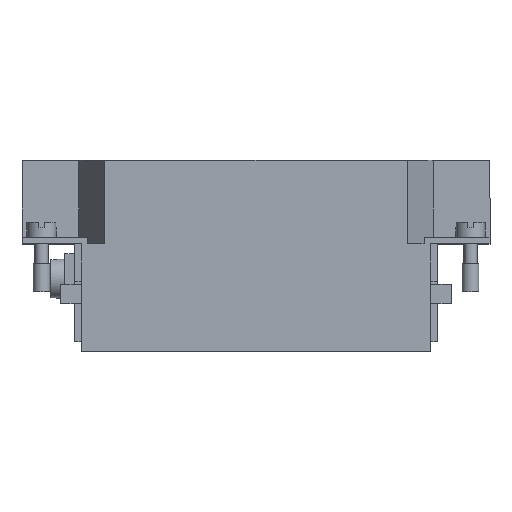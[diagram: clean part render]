
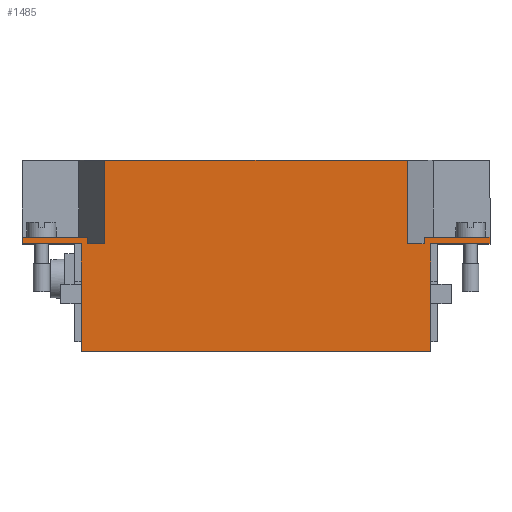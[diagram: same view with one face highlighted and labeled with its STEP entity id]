
A CAD part, top view. The second image highlights one B-rep face of the part: STEP entity #1485.
In plain terms, the highlighted planar face has unit normal (0, 0, 1).
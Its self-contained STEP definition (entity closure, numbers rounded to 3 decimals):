
#7 = LINE ( 'NONE', #10533, #17126 ) ;
#134 = EDGE_CURVE ( 'NONE', #12467, #17345, #18294, .T. ) ;
#245 = CARTESIAN_POINT ( 'NONE',  ( 42.25, -15.1, 17. ) ) ;
#351 = CARTESIAN_POINT ( 'NONE',  ( -42.25, -15.1, 17. ) ) ;
#538 = ORIENTED_EDGE ( 'NONE', *, *, #3403, .T. ) ;
#592 = ORIENTED_EDGE ( 'NONE', *, *, #15214, .T. ) ;
#624 = VECTOR ( 'NONE', #15705, 1000. ) ;
#713 = LINE ( 'NONE', #6537, #18332 ) ;
#1282 = VERTEX_POINT ( 'NONE', #12933 ) ;
#1347 = CARTESIAN_POINT ( 'NONE',  ( -30.35, -15.1, 17. ) ) ;
#1360 = CARTESIAN_POINT ( 'NONE',  ( -30.35, -13.9, 17. ) ) ;
#1450 = ORIENTED_EDGE ( 'NONE', *, *, #16449, .F. ) ;
#1485 = ADVANCED_FACE ( 'NONE', ( #8835 ), #2598, .F. ) ;
#1645 = ORIENTED_EDGE ( 'NONE', *, *, #4972, .T. ) ;
#1813 = CARTESIAN_POINT ( 'NONE',  ( 29.25, 0., 17. ) ) ;
#1934 = EDGE_CURVE ( 'NONE', #9774, #15544, #16832, .T. ) ;
#2029 = DIRECTION ( 'NONE',  ( 0., 1., 0. ) ) ;
#2134 = VERTEX_POINT ( 'NONE', #13065 ) ;
#2208 = DIRECTION ( 'NONE',  ( -1., 0., 0. ) ) ;
#2480 = CARTESIAN_POINT ( 'NONE',  ( -42.25, -13.9, 17. ) ) ;
#2598 = PLANE ( 'NONE',  #9828 ) ;
#2717 = LINE ( 'NONE', #17079, #624 ) ;
#2855 = VERTEX_POINT ( 'NONE', #8913 ) ;
#2982 = CARTESIAN_POINT ( 'NONE',  ( -30.35, 0., 17. ) ) ;
#3017 = ORIENTED_EDGE ( 'NONE', *, *, #17130, .T. ) ;
#3080 = VERTEX_POINT ( 'NONE', #12600 ) ;
#3257 = DIRECTION ( 'NONE',  ( 1., 0., 0. ) ) ;
#3293 = ORIENTED_EDGE ( 'NONE', *, *, #18886, .F. ) ;
#3403 = EDGE_CURVE ( 'NONE', #12467, #11055, #10590, .T. ) ;
#3729 = CARTESIAN_POINT ( 'NONE',  ( 30.35, -15.1, 17. ) ) ;
#3981 = CARTESIAN_POINT ( 'NONE',  ( -27.303, 0., 17. ) ) ;
#4144 = CARTESIAN_POINT ( 'NONE',  ( -29.25, -15.1, 17. ) ) ;
#4382 = VECTOR ( 'NONE', #14411, 1000. ) ;
#4675 = CARTESIAN_POINT ( 'NONE',  ( 31.55, -15.1, 17. ) ) ;
#4777 = LINE ( 'NONE', #1813, #17705 ) ;
#4972 = EDGE_CURVE ( 'NONE', #1282, #2855, #19487, .T. ) ;
#5327 = CARTESIAN_POINT ( 'NONE',  ( 31.55, -34.5, 17. ) ) ;
#5615 = DIRECTION ( 'NONE',  ( 0., -1., 0. ) ) ;
#6246 = CARTESIAN_POINT ( 'NONE',  ( 29.25, -15.1, 17. ) ) ;
#6310 = EDGE_CURVE ( 'NONE', #17449, #17106, #2717, .T. ) ;
#6355 = VECTOR ( 'NONE', #3257, 1000. ) ;
#6537 = CARTESIAN_POINT ( 'NONE',  ( 27.303, -15., 17. ) ) ;
#7265 = DIRECTION ( 'NONE',  ( 0., -1., 0. ) ) ;
#7449 = VERTEX_POINT ( 'NONE', #8310 ) ;
#7831 = EDGE_CURVE ( 'NONE', #19233, #17449, #17001, .T. ) ;
#8159 = LINE ( 'NONE', #11264, #4382 ) ;
#8281 = CARTESIAN_POINT ( 'NONE',  ( 29.25, -13.9, 17. ) ) ;
#8310 = CARTESIAN_POINT ( 'NONE',  ( 27.303, 0., 17. ) ) ;
#8358 = DIRECTION ( 'NONE',  ( 1., 0., 0. ) ) ;
#8833 = VERTEX_POINT ( 'NONE', #3981 ) ;
#8835 = FACE_OUTER_BOUND ( 'NONE', #9349, .T. ) ;
#8913 = CARTESIAN_POINT ( 'NONE',  ( -31.55, -34.5, 17. ) ) ;
#8965 = VECTOR ( 'NONE', #14246, 1000. ) ;
#9110 = VECTOR ( 'NONE', #17454, 1000. ) ;
#9167 = VECTOR ( 'NONE', #5615, 1000. ) ;
#9189 = LINE ( 'NONE', #18230, #6355 ) ;
#9349 = EDGE_LOOP ( 'NONE', ( #15488, #17257, #538, #3017, #1645, #9423, #19001, #12169, #3293, #17409, #10589, #1450, #592, #10594, #15094, #15220 ) ) ;
#9423 = ORIENTED_EDGE ( 'NONE', *, *, #18380, .T. ) ;
#9685 = EDGE_CURVE ( 'NONE', #3080, #8833, #13911, .T. ) ;
#9695 = EDGE_CURVE ( 'NONE', #18972, #3080, #9189, .T. ) ;
#9774 = VERTEX_POINT ( 'NONE', #13642 ) ;
#9786 = EDGE_CURVE ( 'NONE', #8833, #7449, #4777, .T. ) ;
#9828 = AXIS2_PLACEMENT_3D ( 'NONE', #11468, #9938, #15998 ) ;
#9938 = DIRECTION ( 'NONE',  ( 0., 0., -1. ) ) ;
#9977 = VECTOR ( 'NONE', #2208, 1000. ) ;
#10153 = CARTESIAN_POINT ( 'NONE',  ( -42.25, -13.9, 17. ) ) ;
#10403 = DIRECTION ( 'NONE',  ( 0., -1., 0. ) ) ;
#10533 = CARTESIAN_POINT ( 'NONE',  ( 29.25, -34.5, 17. ) ) ;
#10589 = ORIENTED_EDGE ( 'NONE', *, *, #12425, .T. ) ;
#10590 = LINE ( 'NONE', #2480, #9167 ) ;
#10594 = ORIENTED_EDGE ( 'NONE', *, *, #9786, .F. ) ;
#10601 = CARTESIAN_POINT ( 'NONE',  ( -27.303, -15., 17. ) ) ;
#11055 = VERTEX_POINT ( 'NONE', #351 ) ;
#11062 = VECTOR ( 'NONE', #8358, 1000. ) ;
#11264 = CARTESIAN_POINT ( 'NONE',  ( 42.25, -13.9, 17. ) ) ;
#11379 = VECTOR ( 'NONE', #7265, 1000. ) ;
#11468 = CARTESIAN_POINT ( 'NONE',  ( 29.25, 67.663, 17. ) ) ;
#11665 = CARTESIAN_POINT ( 'NONE',  ( 30.35, -13.9, 17. ) ) ;
#12036 = VECTOR ( 'NONE', #16519, 1000. ) ;
#12169 = ORIENTED_EDGE ( 'NONE', *, *, #7831, .F. ) ;
#12203 = VECTOR ( 'NONE', #10403, 1000. ) ;
#12425 = EDGE_CURVE ( 'NONE', #15544, #2134, #14899, .T. ) ;
#12467 = VERTEX_POINT ( 'NONE', #10153 ) ;
#12600 = CARTESIAN_POINT ( 'NONE',  ( -27.303, -15.1, 17. ) ) ;
#12933 = CARTESIAN_POINT ( 'NONE',  ( -31.55, -15.1, 17. ) ) ;
#12955 = LINE ( 'NONE', #4144, #11062 ) ;
#13065 = CARTESIAN_POINT ( 'NONE',  ( 30.35, -15.1, 17. ) ) ;
#13186 = CARTESIAN_POINT ( 'NONE',  ( 30.35, 0., 17. ) ) ;
#13560 = DIRECTION ( 'NONE',  ( 1., 0., 0. ) ) ;
#13642 = CARTESIAN_POINT ( 'NONE',  ( 42.25, -13.9, 17. ) ) ;
#13836 = DIRECTION ( 'NONE',  ( 1., 0., 0. ) ) ;
#13911 = LINE ( 'NONE', #10601, #12036 ) ;
#14246 = DIRECTION ( 'NONE',  ( 1., 0., 0. ) ) ;
#14411 = DIRECTION ( 'NONE',  ( 0., -1., 0. ) ) ;
#14869 = VERTEX_POINT ( 'NONE', #15836 ) ;
#14899 = LINE ( 'NONE', #13186, #11379 ) ;
#15094 = ORIENTED_EDGE ( 'NONE', *, *, #9685, .F. ) ;
#15126 = VECTOR ( 'NONE', #16848, 1000. ) ;
#15214 = EDGE_CURVE ( 'NONE', #14869, #7449, #713, .T. ) ;
#15220 = ORIENTED_EDGE ( 'NONE', *, *, #9695, .F. ) ;
#15331 = DIRECTION ( 'NONE',  ( 1., 0., 0. ) ) ;
#15488 = ORIENTED_EDGE ( 'NONE', *, *, #18292, .F. ) ;
#15544 = VERTEX_POINT ( 'NONE', #11665 ) ;
#15705 = DIRECTION ( 'NONE',  ( 0., -1., 0. ) ) ;
#15836 = CARTESIAN_POINT ( 'NONE',  ( 27.303, -15.1, 17. ) ) ;
#15998 = DIRECTION ( 'NONE',  ( 0., -1., 0. ) ) ;
#16449 = EDGE_CURVE ( 'NONE', #14869, #2134, #16974, .T. ) ;
#16519 = DIRECTION ( 'NONE',  ( 0., 1., 0. ) ) ;
#16660 = LINE ( 'NONE', #2982, #12203 ) ;
#16832 = LINE ( 'NONE', #8281, #9977 ) ;
#16848 = DIRECTION ( 'NONE',  ( -1., 0., 0. ) ) ;
#16974 = LINE ( 'NONE', #3729, #8965 ) ;
#17001 = LINE ( 'NONE', #6246, #15126 ) ;
#17079 = CARTESIAN_POINT ( 'NONE',  ( 31.55, 18.978, 17. ) ) ;
#17106 = VERTEX_POINT ( 'NONE', #5327 ) ;
#17126 = VECTOR ( 'NONE', #13560, 1000. ) ;
#17130 = EDGE_CURVE ( 'NONE', #11055, #1282, #12955, .T. ) ;
#17257 = ORIENTED_EDGE ( 'NONE', *, *, #134, .F. ) ;
#17345 = VERTEX_POINT ( 'NONE', #1360 ) ;
#17409 = ORIENTED_EDGE ( 'NONE', *, *, #1934, .T. ) ;
#17449 = VERTEX_POINT ( 'NONE', #4675 ) ;
#17454 = DIRECTION ( 'NONE',  ( 0., -1., 0. ) ) ;
#17510 = CARTESIAN_POINT ( 'NONE',  ( -31.55, 18.978, 17. ) ) ;
#17705 = VECTOR ( 'NONE', #13836, 1000. ) ;
#18002 = CARTESIAN_POINT ( 'NONE',  ( -29.25, -13.9, 17. ) ) ;
#18230 = CARTESIAN_POINT ( 'NONE',  ( -27.303, -15.1, 17. ) ) ;
#18292 = EDGE_CURVE ( 'NONE', #17345, #18972, #16660, .T. ) ;
#18294 = LINE ( 'NONE', #18002, #18758 ) ;
#18332 = VECTOR ( 'NONE', #2029, 1000. ) ;
#18380 = EDGE_CURVE ( 'NONE', #2855, #17106, #7, .T. ) ;
#18758 = VECTOR ( 'NONE', #15331, 1000. ) ;
#18886 = EDGE_CURVE ( 'NONE', #9774, #19233, #8159, .T. ) ;
#18972 = VERTEX_POINT ( 'NONE', #1347 ) ;
#19001 = ORIENTED_EDGE ( 'NONE', *, *, #6310, .F. ) ;
#19233 = VERTEX_POINT ( 'NONE', #245 ) ;
#19487 = LINE ( 'NONE', #17510, #9110 ) ;
